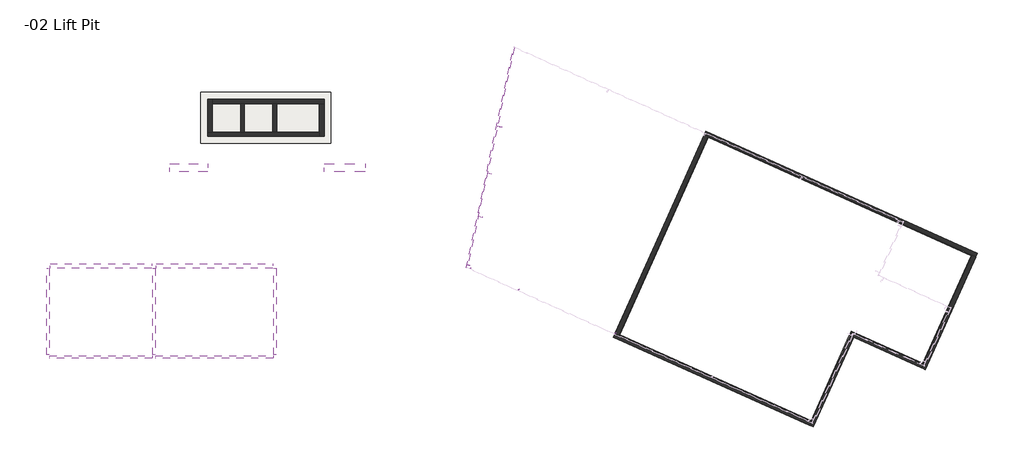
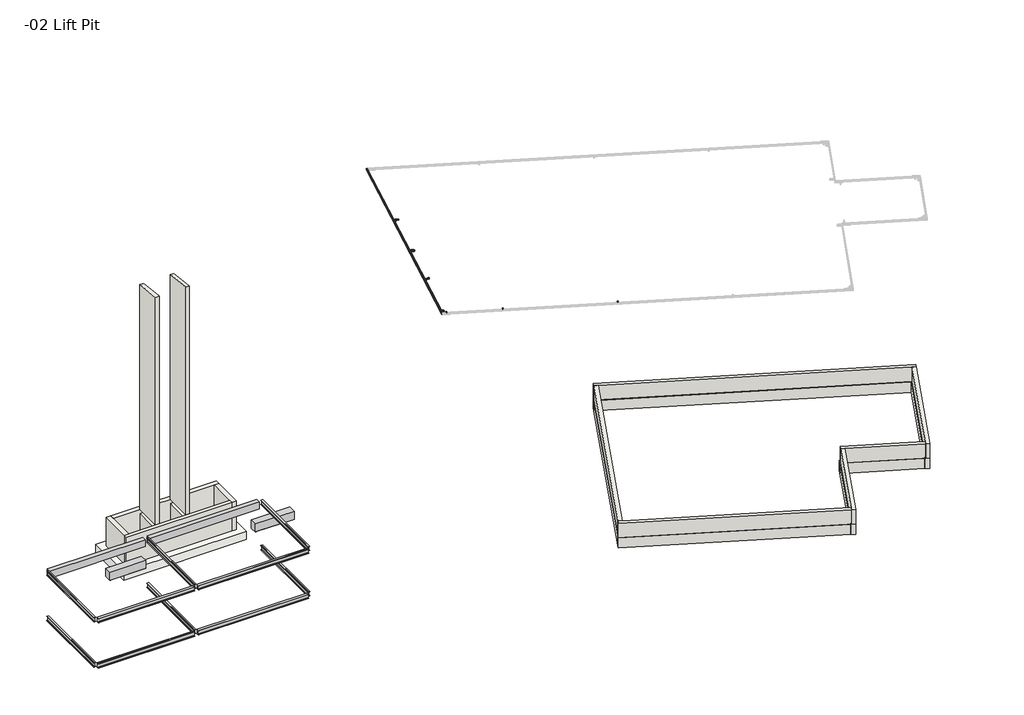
# One storey, part 1 of 3: 22 beams, 18 walls, 1 slab.
"""IFC4 building model written with IfcOpenShell, lengths in millimetres."""

from ifc_helpers import new_model, si_unit, frame, origin, place, context, project, spatial, polyline, ellipse_curve, outline, extrude, faceted_brep, transform, mapped, element, save
from ifc_brep_helpers import plane_surface, cylinder_surface, revolved_surface, advanced_brep
from components import hss_hollow_structural_section_hss3x2x1_8_139d3190, hss_hollow_structural_section_hss3x2x1_8_24952963, hss_hollow_structural_section_hss3x2x1_8_be35bb29, hss_hollow_structural_section_hss3x2x1_8_7ccaf686, hss_hollow_structural_section_hss3x2x1_8_c5a4428d, w_shapes_w12x26_597c9bcb, w_shapes_w12x26_85c0d87e, w_shapes_w12x26_268029d0, w_shapes_w12x26_8135fd55

model = new_model("IFC4")

# Units and contexts
model_context = context("Model", 3, world=origin())
ifc_project = project(units=[si_unit("LENGTHUNIT", "METRE", prefix="MILLI")], contexts=[model_context])

# Site, building, storey
site = spatial("IfcSite", under=ifc_project)
building = spatial("IfcBuilding", under=site)
storey = spatial("IfcBuildingStorey", under=building, Name="-02 Lift Pit", Elevation=-2133.6)

# Beams
placement = place(None, origin())
element("IfcBeam", 1, ObjectType="Concrete-Rectangular Beam : 12 x 24", at=placement, inside=storey, context=model_context, shape_type="SweptSolid", body=[
    extrude(outline(polyline([(152.4, -14147.8), (152.4, -13843.0), (6858.0, -13843.0), (6858.0, -14147.8), (152.4, -14147.8)])), frame((0.0, 0.0, 5892.8), z_axis=(0.0, 0.0, 1.0), x_axis=(1.0, 0.0, 0.0)), (0.0, 0.0, 1.0), 508.0),
])
element("IfcBeam", 2, ObjectType="Concrete-Rectangular Beam : 12 x 24", at=placement, inside=storey, context=model_context, shape_type="SweptSolid", body=[
    extrude(outline(polyline([(14846.3, -13843.0), (14846.3, -14147.8), (7162.8, -14147.8), (7162.8, -13843.0), (14846.3, -13843.0)])), frame((0.0, 0.0, 5892.8), z_axis=(0.0, 0.0, 1.0), x_axis=(1.0, 0.0, 0.0)), (0.0, 0.0, 1.0), 508.0),
])
hss_hollow_structural_section_hss3x2x1_8_shape = hss_hollow_structural_section_hss3x2x1_8_139d3190(model_context)
element("IfcBeam", 3, ObjectType="HSS-Hollow Structural Section : HSS3X2X1/8", at=placement, inside=storey, context=model_context, shape_type="MappedRepresentation", body=[
    mapped(hss_hollow_structural_section_hss3x2x1_8_shape, transform((28553.1839899, -10746.3611508, 16083.2409028), x_axis=(0.9777434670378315, -0.20951645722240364, 0.010980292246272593), y_axis=(0.20870511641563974, 0.9766389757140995, 0.05117113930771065), z_axis=(-0.021444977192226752, -0.04774060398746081, 0.9986295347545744))),
])
element("IfcBeam", 4, ObjectType="HSS-Hollow Structural Section : HSS3X2X1/8", at=placement, inside=storey, context=model_context, shape_type="MappedRepresentation", body=[
    mapped(hss_hollow_structural_section_hss3x2x1_8_shape, transform((29163.4667864, -7890.5329109, 16232.8724333), x_axis=(0.9777434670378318, -0.20951645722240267, 0.010980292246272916), y_axis=(0.20870511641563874, 0.9766389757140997, 0.05117113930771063), z_axis=(-0.021444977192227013, -0.04774060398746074, 0.9986295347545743))),
])
element("IfcBeam", 5, ObjectType="HSS-Hollow Structural Section : HSS3X2X1/8", at=placement, inside=storey, context=model_context, shape_type="MappedRepresentation", body=[
    mapped(hss_hollow_structural_section_hss3x2x1_8_shape, transform((29824.9886577, -4794.9305897, 16395.0669613), x_axis=(0.9777434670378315, -0.2095164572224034, 0.010980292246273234), y_axis=(0.20870511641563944, 0.9766389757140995, 0.05117113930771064), z_axis=(-0.021444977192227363, -0.04774060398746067, 0.9986295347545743))),
])
hss_hollow_structural_section_hss3x2x1_8_2_shape = hss_hollow_structural_section_hss3x2x1_8_24952963(model_context)
element("IfcBeam", 6, ObjectType="HSS-Hollow Structural Section : HSS3X2X1/8", at=placement, inside=storey, context=model_context, shape_type="MappedRepresentation", body=[
    mapped(hss_hollow_structural_section_hss3x2x1_8_2_shape, transform((31113.9933399, -15523.9075304, 15909.8368069), x_axis=(-0.40919454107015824, -0.9109449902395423, -0.05233595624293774), y_axis=(0.9121951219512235, -0.409756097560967, 0.0), z_axis=(-0.021444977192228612, -0.0477406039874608, 0.9986295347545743))),
])
hss_hollow_structural_section_hss3x2x1_8_3_shape = hss_hollow_structural_section_hss3x2x1_8_be35bb29(model_context)
element("IfcBeam", 7, ObjectType="HSS-Hollow Structural Section : HSS3X2X1/8", at=placement, inside=storey, context=model_context, shape_type="MappedRepresentation", body=[
    mapped(hss_hollow_structural_section_hss3x2x1_8_3_shape, transform((37509.7248478, -18394.5052449, 15909.9492086), x_axis=(-0.409194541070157, -0.910944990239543, -0.05233595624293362), y_axis=(0.912195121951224, -0.4097560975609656, 0.0), z_axis=(-0.021444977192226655, -0.04774060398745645, 0.9986295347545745))),
])
hss_hollow_structural_section_hss3x2x1_8_4_shape = hss_hollow_structural_section_hss3x2x1_8_7ccaf686(model_context)
element("IfcBeam", 8, ObjectType="HSS-Hollow Structural Section : HSS3X2X1/8", at=placement, inside=storey, context=model_context, shape_type="MappedRepresentation", body=[
    mapped(hss_hollow_structural_section_hss3x2x1_8_4_shape, transform((27860.6590059, -13959.5725396, 15914.7581682), x_axis=(-0.9777434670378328, 0.209516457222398, -0.010980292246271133), y_axis=(-0.20870511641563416, -0.9766389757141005, -0.05117113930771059), z_axis=(-0.021444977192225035, -0.047740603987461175, 0.9986295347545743))),
])
hss_hollow_structural_section_hss3x2x1_8_5_shape = hss_hollow_structural_section_hss3x2x1_8_c5a4428d(model_context)
element("IfcBeam", 9, ObjectType="HSS-Hollow Structural Section : HSS3X2X1/8", at=placement, inside=storey, context=model_context, shape_type="MappedRepresentation", body=[
    mapped(hss_hollow_structural_section_hss3x2x1_8_5_shape, transform((27952.9662678, -14104.0086143, 15909.8354835), x_axis=(-0.40919454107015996, -0.9109449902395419, -0.05233595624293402), y_axis=(0.9121951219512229, -0.40975609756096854, 0.0), z_axis=(-0.02144497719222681, -0.0477406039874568, 0.9986295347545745))),
])
element("IfcBeam", 10, ObjectType="HSS-Hollow Structural Section : HSS5X2X1/8", at=placement, inside=storey, context=model_context, shape_type="AdvancedBrep", body=[
    advanced_brep(
    [(30775.5166497, 477.596911, 16705.6903584), (30771.4031294, 486.233955, 16700.1140396), (27647.3085375, -14133.0173345, 15934.13627), (27653.9377637, -14129.882092, 15940.3293994), (30803.5876534, 422.2762939, 16703.6485024), (27698.6644754, -14107.262053, 15942.3712554), (30807.9539155, 414.2019015, 16697.455373), (27705.5464435, -14103.5641587, 15936.7949366), (30810.4246857, 419.7023065, 16582.3988703), (27708.0172137, -14098.0637537, 15821.7384339), (30806.3111655, 428.3393506, 16576.8225515), (27701.3879876, -14101.1989963, 15815.5453044), (30778.2401618, 483.6599677, 16578.8644074), (27656.6612758, -14123.8190353, 15813.5034485), (30773.8738996, 491.73436, 16585.0575369), (27649.7793077, -14127.5169295, 15819.0797673), (30775.5798351, 477.7375739, 16702.7479963), (30803.6508388, 422.4169568, 16700.7061404), (27698.7276609, -14107.1213901, 15939.4288933), (27654.0009491, -14129.7414291, 15937.3870374), (30773.523075, 482.0560959, 16699.9598369), (27650.6863361, -14131.3090503, 15934.2904726), (30775.9938452, 487.5565009, 16584.9033342), (27653.1571062, -14125.8086453, 15819.23397), (30778.1769763, 483.5193048, 16581.8067695), (27656.5980903, -14123.9596982, 15816.4458106), (30806.24798, 428.1986877, 16579.7649136), (27701.3248021, -14101.3396592, 15818.4876665), (30808.3047401, 423.8801657, 16582.553073), (27704.6394151, -14099.7720379, 15821.5842312), (30805.8339699, 418.3797606, 16697.6095756), (27702.168645, -14105.2724429, 15936.6407339)],
    [
        (0, 1, ellipse_curve(frame((30775.6430206, 477.8782368, 16699.8056342), z_axis=(-0.89162974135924, -0.4509318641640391, -0.04070452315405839), x_axis=(-0.45225713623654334, 0.8912807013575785, 0.0328967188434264)), 9.3749569, 5.8928)),
        (1, 2),
        (2, 3, ellipse_curve(frame((27654.0641346, -14129.6007661, 15934.4446753), z_axis=(-0.452257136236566, 0.8912807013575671, 0.03289671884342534), x_axis=(0.8916297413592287, 0.45093186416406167, 0.04070452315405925)), 7.5766843, 5.8928)),
        (3, 0),
        (4, 0),
        (3, 5),
        (5, 4),
        (6, 4, ellipse_curve(frame((30803.7140243, 422.5576197, 16697.7637783), z_axis=(-0.89162974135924, -0.4509318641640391, -0.04070452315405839), x_axis=(-0.45225713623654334, 0.8912807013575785, 0.0328967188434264)), 9.3749569, 5.8928)),
        (5, 7, ellipse_curve(frame((27698.7908464, -14106.9807271, 15936.4865312), z_axis=(-0.452257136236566, 0.8912807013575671, 0.03289671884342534), x_axis=(0.8916297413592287, 0.45093186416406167, 0.04070452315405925)), 7.5766843, 5.8928)),
        (7, 6),
        (8, 6),
        (7, 9),
        (9, 8),
        (10, 8, ellipse_curve(frame((30806.1847945, 428.0580248, 16582.7072756), z_axis=(-0.89162974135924, -0.4509318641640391, -0.04070452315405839), x_axis=(-0.45225713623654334, 0.8912807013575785, 0.0328967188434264)), 9.3749569, 5.8928)),
        (9, 11, ellipse_curve(frame((27701.2616166, -14101.4803221, 15821.4300286), z_axis=(-0.452257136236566, 0.8912807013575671, 0.03289671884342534), x_axis=(0.8916297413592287, 0.45093186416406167, 0.04070452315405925)), 7.5766843, 5.8928)),
        (11, 10),
        (12, 10),
        (11, 13),
        (13, 12),
        (14, 12, ellipse_curve(frame((30778.1137908, 483.3786418, 16584.7491316), z_axis=(-0.89162974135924, -0.4509318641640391, -0.04070452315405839), x_axis=(-0.45225713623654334, 0.8912807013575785, 0.0328967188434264)), 9.3749569, 5.8928)),
        (13, 15, ellipse_curve(frame((27656.5349048, -14124.1003611, 15819.3881726), z_axis=(-0.452257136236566, 0.8912807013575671, 0.03289671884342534), x_axis=(0.8916297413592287, 0.45093186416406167, 0.04070452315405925)), 7.5766843, 5.8928)),
        (15, 14),
        (1, 14),
        (15, 2),
        (16, 17),
        (17, 18),
        (18, 19),
        (19, 16),
        (20, 16, ellipse_curve(frame((30775.6430206, 477.8782368, 16699.8056342), z_axis=(0.89162974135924, 0.4509318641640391, 0.04070452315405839), x_axis=(0.45225713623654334, -0.8912807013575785, -0.0328967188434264)), 4.6874785, 2.9464)),
        (19, 21, ellipse_curve(frame((27654.0641346, -14129.6007661, 15934.4446753), z_axis=(0.452257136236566, -0.8912807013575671, -0.03289671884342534), x_axis=(-0.8916297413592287, -0.45093186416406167, -0.04070452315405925)), 3.7883422, 2.9464)),
        (21, 20),
        (22, 20),
        (21, 23),
        (23, 22),
        (24, 22, ellipse_curve(frame((30778.1137908, 483.3786418, 16584.7491316), z_axis=(0.89162974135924, 0.4509318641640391, 0.04070452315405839), x_axis=(0.45225713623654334, -0.8912807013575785, -0.0328967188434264)), 4.6874785, 2.9464)),
        (23, 25, ellipse_curve(frame((27656.5349048, -14124.1003611, 15819.3881726), z_axis=(0.452257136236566, -0.8912807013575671, -0.03289671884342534), x_axis=(-0.8916297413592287, -0.45093186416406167, -0.04070452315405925)), 3.7883422, 2.9464)),
        (25, 24),
        (26, 24),
        (25, 27),
        (27, 26),
        (28, 26, ellipse_curve(frame((30806.1847945, 428.0580248, 16582.7072756), z_axis=(0.89162974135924, 0.4509318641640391, 0.04070452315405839), x_axis=(0.45225713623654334, -0.8912807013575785, -0.0328967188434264)), 4.6874785, 2.9464)),
        (27, 29, ellipse_curve(frame((27701.2616166, -14101.4803221, 15821.4300286), z_axis=(0.452257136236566, -0.8912807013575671, -0.03289671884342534), x_axis=(-0.8916297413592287, -0.45093186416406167, -0.04070452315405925)), 3.7883422, 2.9464)),
        (29, 28),
        (30, 28),
        (29, 31),
        (31, 30),
        (17, 30, ellipse_curve(frame((30803.7140243, 422.5576197, 16697.7637783), z_axis=(0.89162974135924, 0.4509318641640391, 0.04070452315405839), x_axis=(0.45225713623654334, -0.8912807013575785, -0.0328967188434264)), 4.6874785, 2.9464)),
        (31, 18, ellipse_curve(frame((27698.7908464, -14106.9807271, 15936.4865312), z_axis=(0.452257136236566, -0.8912807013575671, -0.03289671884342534), x_axis=(-0.8916297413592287, -0.45093186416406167, -0.04070452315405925)), 3.7883422, 2.9464)),
    ],
    [
        cylinder_surface(frame((30770.6054851, 454.3050077, 16698.5705115), z_axis=(0.2087051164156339, 0.9766389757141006, 0.05117113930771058), x_axis=(0.9777434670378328, -0.20951645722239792, 0.010980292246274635)), 5.8928),
        plane_surface(frame((30770.4791142, 454.0236819, 16704.4552356), z_axis=(-0.02144497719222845, -0.04774060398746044, 0.9986295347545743), x_axis=(-0.2087051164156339, -0.9766389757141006, -0.05117113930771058))),
        cylinder_surface(frame((30808.7515598, 446.1308488, 16698.998901), z_axis=(0.2087051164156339, 0.9766389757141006, 0.05117113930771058), x_axis=(0.9777434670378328, -0.20951645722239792, 0.010980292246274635)), 5.8928),
        plane_surface(frame((30814.5132065, 444.8962102, 16699.0636057), z_axis=(0.9777434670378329, -0.20951645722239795, 0.010980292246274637), x_axis=(-0.2087051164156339, -0.9766389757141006, -0.05117113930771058))),
        cylinder_surface(frame((30811.22233, 451.6312539, 16583.9423984), z_axis=(0.2087051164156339, 0.9766389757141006, 0.05117113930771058), x_axis=(0.9777434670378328, -0.20951645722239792, 0.010980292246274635)), 5.8928),
        plane_surface(frame((30811.348701, 451.9125797, 16578.0576742), z_axis=(0.02144497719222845, 0.04774060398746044, -0.9986295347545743), x_axis=(-0.2087051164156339, -0.9766389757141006, -0.05117113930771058))),
        cylinder_surface(frame((30773.0762553, 459.8054127, 16583.5140088), z_axis=(0.2087051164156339, 0.9766389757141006, 0.05117113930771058), x_axis=(0.9777434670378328, -0.20951645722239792, 0.010980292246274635)), 5.8928),
        plane_surface(frame((30767.3146086, 461.0400513, 16583.4493042), z_axis=(-0.9777434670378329, 0.20951645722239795, -0.010980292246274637), x_axis=(-0.2087051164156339, -0.9766389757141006, -0.05117113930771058))),
        plane_surface(frame((30808.6883744, 445.9901859, 16701.9412631), z_axis=(0.02144497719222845, 0.04774060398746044, -0.9986295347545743), x_axis=(-0.2087051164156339, -0.9766389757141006, -0.05117113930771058))),
        revolved_surface(polyline([(27656.44798275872, -14132.54368889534, 15934.355177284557), (30779.284721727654, 480.82145733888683, 16700.024541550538)]), (30770.6054851, 454.3050077, 16698.5705115), (-0.2087051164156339, -0.9766389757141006, -0.05117113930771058)),
        plane_surface(frame((30767.7246618, 454.922327, 16698.5381592), z_axis=(0.9777434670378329, -0.20951645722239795, 0.010980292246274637), x_axis=(-0.2087051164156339, -0.9766389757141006, -0.05117113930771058))),
        revolved_surface(polyline([(27658.91875295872, -14127.04328389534, 15819.29867458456), (30781.75549192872, 486.3218623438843, 16584.968038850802)]), (30773.0762553, 459.8054127, 16583.5140088), (-0.2087051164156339, -0.9766389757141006, -0.05117113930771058)),
        plane_surface(frame((30773.1394408, 459.9460756, 16580.5716468), z_axis=(-0.02144497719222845, -0.04774060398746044, 0.9986295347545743), x_axis=(-0.2087051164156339, -0.9766389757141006, -0.05117113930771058))),
        revolved_surface(polyline([(27703.64546471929, -14104.423244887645, 15821.340530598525), (30809.826495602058, 431.00124534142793, 16582.92618300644)]), (30811.22233, 451.6312539, 16583.9423984), (-0.2087051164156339, -0.9766389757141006, -0.05117113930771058)),
        plane_surface(frame((30814.1031534, 451.0139346, 16583.9747507), z_axis=(-0.9777434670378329, 0.20951645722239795, -0.010980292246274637), x_axis=(-0.2087051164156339, -0.9766389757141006, -0.05117113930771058))),
        revolved_surface(polyline([(27701.174694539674, -14109.923649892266, 15936.397033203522), (30807.355725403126, 425.5008402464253, 16697.9826856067)]), (30808.7515598, 446.1308488, 16698.998901), (-0.2087051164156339, -0.9766389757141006, -0.05117113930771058)),
        plane_surface(frame((27703.7859653, -14107.4833186, 16018.7752312), z_axis=(0.4522571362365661, -0.8912807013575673, -0.03289671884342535), x_axis=(0.8918875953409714, 0.45194939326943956, 0.016681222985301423))),
        plane_surface(frame((30806.1934373, 410.2827416, 16779.4356677), z_axis=(0.8916297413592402, 0.4509318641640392, 0.0407045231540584), x_axis=(0.4527652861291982, -0.8880191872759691, -0.08015933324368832))),
    ],
    [
        (0, [[1, 2, 3, 4]]),
        (1, [[5, -4, 6, 7]]),
        (2, [[8, -7, 9, 10]]),
        (3, [[11, -10, 12, 13]]),
        (4, [[14, -13, 15, 16]]),
        (5, [[17, -16, 18, 19]]),
        (6, [[20, -19, 21, 22]]),
        (7, [[23, -22, 24, -2]]),
        (8, [[25, 26, 27, 28]]),
        (9, [[29, -28, 30, 31]]),
        (10, [[32, -31, 33, 34]]),
        (11, [[35, -34, 36, 37]]),
        (12, [[38, -37, 39, 40]]),
        (13, [[41, -40, 42, 43]]),
        (14, [[44, -43, 45, 46]]),
        (15, [[47, -46, 48, -26]]),
        (16, [[-24, -21, -18, -15, -12, -9, -6, -3], [-48, -45, -42, -39, -36, -33, -30, -27]]),
        (17, [[-1, -5, -8, -11, -14, -17, -20, -23], [-25, -29, -32, -35, -38, -41, -44, -47]]),
    ],
),
])
element("IfcBeam", 11, ObjectType="Ring Beam : 12 x 24", at=placement, inside=storey, context=model_context, shape_type="SweptSolid", body=[
    extrude(outline(polyline([(-7759.7, -304.8), (-7251.7, -304.8), (-7251.7, -889.0), (-7277.1, -914.4), (-7734.3, -914.4), (-7759.7, -889.0), (-7759.7, -304.8)])), frame((18249.9, 0.0, 0.0), z_axis=(1.0, 0.0, 0.0), x_axis=(0.0, 1.0, 0.0)), (0.0, 0.0, 1.0), 2717.8),
])
element("IfcBeam", 12, ObjectType="Ring Beam : 12 x 24", at=placement, inside=storey, context=model_context, shape_type="SweptSolid", body=[
    extrude(outline(polyline([(-7759.7, -889.0), (-7759.7, -304.8), (-7251.7, -304.8), (-7251.7, -889.0), (-7277.1, -914.4), (-7734.3, -914.4), (-7759.7, -889.0)])), frame((8051.8, 0.0, 0.0), z_axis=(1.0, 0.0, 0.0), x_axis=(0.0, 1.0, 0.0)), (0.0, 0.0, 1.0), 2501.9),
])
w_shapes_w12x26_shape = w_shapes_w12x26_597c9bcb(model_context)
element("IfcBeam", 13, ObjectType="W Shapes : W12X26", at=placement, inside=storey, context=model_context, shape_type="MappedRepresentation", body=[
    mapped(w_shapes_w12x26_shape, transform((14998.7, -16998.95, 2994.66), x_axis=(0.0, -1.0, 0.0), y_axis=(1.0, 0.0, 0.0), z_axis=(0.0, 0.0, 1.0))),
])
element("IfcBeam", 14, ObjectType="W Shapes : W12X26", at=placement, inside=storey, context=model_context, shape_type="MappedRepresentation", body=[
    mapped(w_shapes_w12x26_shape, transform((14998.7, -16998.95, 6347.46), x_axis=(0.0, -1.0, 0.0), y_axis=(1.0, 0.0, 0.0), z_axis=(0.0, 0.0, 1.0))),
])
w_shapes_w12x26_2_shape = w_shapes_w12x26_85c0d87e(model_context)
element("IfcBeam", 15, ObjectType="W Shapes : W12X26", at=placement, inside=storey, context=model_context, shape_type="MappedRepresentation", body=[
    mapped(w_shapes_w12x26_2_shape, transform((11004.55, -20002.5, 2994.66), x_axis=(-1.0, 0.0, 0.0), y_axis=(0.0, -1.0, 0.0), z_axis=(0.0, 0.0, 1.0))),
])
element("IfcBeam", 16, ObjectType="W Shapes : W12X26", at=placement, inside=storey, context=model_context, shape_type="MappedRepresentation", body=[
    mapped(w_shapes_w12x26_2_shape, transform((11004.55, -20002.5, 6347.46), x_axis=(-1.0, 0.0, 0.0), y_axis=(0.0, -1.0, 0.0), z_axis=(0.0, 0.0, 1.0))),
])
w_shapes_w12x26_3_shape = w_shapes_w12x26_268029d0(model_context)
element("IfcBeam", 17, ObjectType="W Shapes : W12X26", at=placement, inside=storey, context=model_context, shape_type="MappedRepresentation", body=[
    mapped(w_shapes_w12x26_3_shape, transform((7010.4, -16998.95, 2994.66), x_axis=(0.0, 1.0, 0.0), y_axis=(-1.0, 0.0, 0.0), z_axis=(0.0, 0.0, 1.0))),
])
element("IfcBeam", 18, ObjectType="W Shapes : W12X26", at=placement, inside=storey, context=model_context, shape_type="MappedRepresentation", body=[
    mapped(w_shapes_w12x26_3_shape, transform((0.0, -16998.95, 2994.66), x_axis=(0.0, 1.0, 0.0), y_axis=(-1.0, 0.0, 0.0), z_axis=(0.0, 0.0, 1.0))),
])
element("IfcBeam", 19, ObjectType="W Shapes : W12X26", at=placement, inside=storey, context=model_context, shape_type="MappedRepresentation", body=[
    mapped(w_shapes_w12x26_3_shape, transform((7010.4, -16998.95, 6347.46), x_axis=(0.0, 1.0, 0.0), y_axis=(-1.0, 0.0, 0.0), z_axis=(0.0, 0.0, 1.0))),
])
element("IfcBeam", 20, ObjectType="W Shapes : W12X26", at=placement, inside=storey, context=model_context, shape_type="MappedRepresentation", body=[
    mapped(w_shapes_w12x26_3_shape, transform((0.0, -16998.95, 6347.46), x_axis=(0.0, 1.0, 0.0), y_axis=(-1.0, 0.0, 0.0), z_axis=(0.0, 0.0, 1.0))),
])
w_shapes_w12x26_4_shape = w_shapes_w12x26_8135fd55(model_context)
element("IfcBeam", 21, ObjectType="W Shapes : W12X26", at=placement, inside=storey, context=model_context, shape_type="MappedRepresentation", body=[
    mapped(w_shapes_w12x26_4_shape, transform((3505.2, -20002.5, 2994.66), x_axis=(-1.0, 0.0, 0.0), y_axis=(0.0, -1.0, 0.0), z_axis=(0.0, 0.0, 1.0))),
])
element("IfcBeam", 22, ObjectType="W Shapes : W12X26", at=placement, inside=storey, context=model_context, shape_type="MappedRepresentation", body=[
    mapped(w_shapes_w12x26_4_shape, transform((3505.2, -20002.5, 6347.46), x_axis=(-1.0, 0.0, 0.0), y_axis=(0.0, -1.0, 0.0), z_axis=(0.0, 0.0, 1.0))),
])

# Slab
element("IfcSlab", 23, ObjectType="24\" Foundation Slab", at=placement, inside=storey, context=model_context, shape_type="SweptSolid", body=[
    extrude(outline(polyline([(10096.5, -5880.1), (10096.5, -2527.3), (18707.1, -2527.3), (18707.1, -5880.1), (10096.5, -5880.1)])), frame((0.0, 0.0, -2743.2), z_axis=(0.0, 0.0, 1.0), x_axis=(1.0, 0.0, 0.0)), (0.0, 0.0, 1.0), 609.6),
])

# Walls
element("IfcWall", 24, ObjectType="RC Wall 10\"", at=placement, inside=storey, context=model_context, shape_type="SweptSolid", body=[
    extrude(outline(polyline([(12992.1, -3289.3), (12992.1, -5168.9), (12738.1, -5168.9), (12738.1, -3289.3), (12992.1, -3289.3)])), frame((0.0, 0.0, -2133.6), z_axis=(0.0, 0.0, 1.0), x_axis=(1.0, 0.0, 0.0)), (0.0, 0.0, 1.0), 1828.8),
    extrude(outline(polyline([(-5168.9, 16872.3860006), (-3289.3, 16674.83208), (-3289.3, 0.0), (-5168.9, 0.0), (-5168.9, 16872.3860006)])), frame((12738.1, 0.0, 0.0), z_axis=(1.0, 0.0, 0.0), x_axis=(0.0, 1.0, 0.0)), (0.0, 0.0, 1.0), 254.0),
])
element("IfcWall", 25, ObjectType="RC Wall 10\"", at=placement, inside=storey, context=model_context, shape_type="SweptSolid", body=[
    extrude(outline(polyline([(15125.7, -3289.3), (15125.7, -5168.9), (14871.7, -5168.9), (14871.7, -3289.3), (15125.7, -3289.3)])), frame((0.0, 0.0, -2133.6), z_axis=(0.0, 0.0, 1.0), x_axis=(1.0, 0.0, 0.0)), (0.0, 0.0, 1.0), 1828.8),
    extrude(outline(polyline([(-5168.9, 16872.3860006), (-3289.3, 16674.83208), (-3289.3, 0.0), (-5168.9, 0.0), (-5168.9, 16872.3860006)])), frame((14871.7, 0.0, 0.0), z_axis=(1.0, 0.0, 0.0), x_axis=(0.0, 1.0, 0.0)), (0.0, 0.0, 1.0), 254.0),
])
element("IfcWall", 26, ObjectType="RC Wall 10\"", at=placement, inside=storey, context=model_context, shape_type="Brep", body=[
    faceted_brep([(10553.7, -5422.9, -2133.6), (17945.1, -5422.9, -2133.6), (17945.1, -5422.9, 0.0), (10553.7, -5422.9, 0.0), (10553.7, -5422.9, -304.8), (10553.7, -5422.9, -914.4), (10553.7, -5168.9, -2133.6), (10553.7, -5168.9, 0.0), (10858.5, -5168.9, 0.0), (17945.1, -5168.9, 0.0), (17945.1, -5168.9, -304.8), (17945.1, -5168.9, -2133.6), (15125.7, -5168.9, -2133.6), (14871.7, -5168.9, -2133.6), (12992.1, -5168.9, -2133.6), (12738.1, -5168.9, -2133.6), (10858.5, -5168.9, -2133.6)], [[[0, 1, 2, 3, 4, 5]], [[6, 7, 8, 9, 10, 11, 12, 13, 14, 15, 16]], [[1, 0, 6, 16, 15, 14, 13, 12, 11]], [[3, 2, 9, 8, 7]], [[0, 5, 4, 3, 7, 6]], [[2, 1, 11, 10, 9]]]),
])
element("IfcWall", 27, ObjectType="RC Wall 10\"", at=placement, inside=storey, context=model_context, shape_type="Brep", body=[
    faceted_brep([(43375.5853595, -5335.982439, -1371.6), (43607.2829205, -5440.0604878, -1371.6), (61077.2790181, -13287.5453659, -1371.6), (61308.976579, -13391.6234146, -1371.6), (61308.976579, -13391.6234146, -304.8), (61077.2790181, -13287.5453659, -304.8), (43607.2829205, -5440.0604878, -304.8), (43375.5853595, -5335.982439, -304.8), (43479.6634083, -5104.284878, -1371.6), (43479.6634083, -5104.284878, -1193.8), (43479.6634083, -5104.284878, -304.8), (61413.0546278, -13159.9258537, -304.8), (61413.0546278, -13159.9258537, -1371.6)], [[[0, 1, 2, 3, 4, 5, 6, 7]], [[8, 9, 10, 11, 12]], [[3, 2, 1, 0, 8, 12]], [[7, 6, 5, 4, 11, 10]], [[4, 3, 12, 11]], [[0, 7, 10, 9, 8]]]),
])
element("IfcWall", 28, ObjectType="RC Wall 10\"", at=placement, inside=storey, context=model_context, shape_type="Brep", body=[
    faceted_brep([(61077.2790181, -13287.5453659, -1371.6), (57835.2477985, -20504.9243902, -1371.6), (57731.1697498, -20736.6219512, -1371.6), (57731.1697498, -20736.6219512, -304.8), (57835.2477985, -20504.9243902, -304.8), (61077.2790181, -13287.5453659, -304.8), (61308.976579, -13391.6234146, -1371.6), (61308.976579, -13391.6234146, -304.8), (57962.8673107, -20840.7, -304.8), (57962.8673107, -20840.7, -1371.6), (61288.1609693, -13437.9629268, -1371.6)], [[[0, 1, 2, 3, 4, 5]], [[6, 7, 8, 9, 10]], [[2, 1, 0, 6, 10, 9]], [[5, 4, 3, 8, 7]], [[0, 5, 7, 6]], [[3, 2, 9, 8]]]),
])
element("IfcWall", 29, ObjectType="RC Wall 10\"", at=placement, inside=storey, context=model_context, shape_type="Brep", body=[
    faceted_brep([(57835.2477985, -20504.9243902, -1371.6), (53108.6175546, -18381.7321951, -1371.6), (53108.6175546, -18381.7321951, -304.8), (57835.2477985, -20504.9243902, -304.8), (57731.1697498, -20736.6219512, -1371.6), (57731.1697498, -20736.6219512, -304.8), (53236.2370668, -18717.5078049, -304.8), (53004.5395059, -18613.4297561, -304.8), (53004.5395059, -18613.4297561, -1371.6), (53236.2370668, -18717.5078049, -1371.6), (57684.8302376, -20715.8063415, -1371.6)], [[[0, 1, 2, 3]], [[4, 5, 6, 7, 8, 9, 10]], [[1, 0, 4, 10, 9, 8]], [[3, 2, 7, 6, 5]], [[0, 3, 5, 4]], [[2, 1, 8, 7]]]),
])
element("IfcWall", 30, ObjectType="RC Wall 10\"", at=placement, inside=storey, context=model_context, shape_type="Brep", body=[
    faceted_brep([(53004.5395059, -18613.4297561, -1371.6), (50449.4234083, -24301.604878, -1371.6), (50345.3453595, -24533.302439, -1371.6), (50345.3453595, -24533.302439, -304.8), (50449.4234083, -24301.604878, -304.8), (53004.5395059, -18613.4297561, -304.8), (53236.2370668, -18717.5078049, -1371.6), (53236.2370668, -18717.5078049, -304.8), (50577.0429205, -24637.3804878, -304.8), (50577.0429205, -24637.3804878, -1371.6)], [[[0, 1, 2, 3, 4, 5]], [[6, 7, 8, 9]], [[2, 1, 0, 6, 9]], [[5, 4, 3, 8, 7]], [[0, 5, 7, 6]], [[3, 2, 9, 8]]]),
])
element("IfcWall", 31, ObjectType="RC Wall 10\"", at=placement, inside=storey, context=model_context, shape_type="Brep", body=[
    faceted_brep([(50449.4234083, -24301.604878, -1371.6), (37706.0575546, -18577.3121951, -1371.6), (37474.3599937, -18473.2341463, -1371.6), (37474.3599937, -18473.2341463, -304.8), (37706.0575546, -18577.3121951, -304.8), (50449.4234083, -24301.604878, -304.8), (50345.3453595, -24533.302439, -1371.6), (50345.3453595, -24533.302439, -304.8), (37370.2819449, -18704.9317073, -304.8), (37370.2819449, -18704.9317073, -1193.8), (37370.2819449, -18704.9317073, -1371.6), (50299.0058473, -24512.4868293, -1371.6)], [[[0, 1, 2, 3, 4, 5]], [[6, 7, 8, 9, 10, 11]], [[2, 1, 0, 6, 11, 10]], [[5, 4, 3, 8, 7]], [[0, 5, 7, 6]], [[3, 2, 10, 9, 8]]]),
])
element("IfcWall", 32, ObjectType="RC Wall 10\"", at=placement, inside=storey, context=model_context, shape_type="Brep", body=[
    faceted_brep([(37706.0575546, -18577.3121951, -1371.6), (43607.2829205, -5440.0604878, -1371.6), (43607.2829205, -5440.0604878, -304.8), (37706.0575546, -18577.3121951, -304.8), (37474.3599937, -18473.2341463, -1371.6), (37474.3599937, -18473.2341463, -304.8), (43375.5853595, -5335.982439, -304.8), (43375.5853595, -5335.982439, -1371.6), (43354.7697498, -5382.3219512, -1371.6), (37495.1756034, -18426.8946341, -1371.6)], [[[0, 1, 2, 3]], [[4, 5, 6, 7, 8, 9]], [[1, 0, 4, 9, 8, 7]], [[3, 2, 6, 5]], [[2, 1, 7, 6]], [[0, 3, 5, 4]]]),
])
element("IfcWall", 33, ObjectType="RC Wall 12\"", at=placement, inside=storey, context=model_context, shape_type="Brep", body=[
    faceted_brep([(10553.7, -2984.5, -2133.6), (10553.7, -5168.9, -2133.6), (10553.7, -5168.9, 0.0), (10553.7, -2984.5, 0.0), (10553.7, -2984.5, -304.8), (10858.5, -2984.5, -2133.6), (10858.5, -2984.5, 0.0), (10858.5, -3289.3, 0.0), (10858.5, -5168.9, 0.0), (10858.5, -5168.9, -304.8), (10858.5, -5168.9, -2133.6), (10858.5, -3289.3, -2133.6)], [[[0, 1, 2, 3, 4]], [[5, 6, 7, 8, 9, 10, 11]], [[1, 0, 5, 11, 10]], [[3, 2, 8, 7, 6]], [[0, 4, 3, 6, 5]], [[2, 1, 10, 9, 8]]]),
])
element("IfcWall", 34, ObjectType="RC Wall 12\"", at=placement, inside=storey, context=model_context, shape_type="Brep", body=[
    faceted_brep([(18249.9, -2984.5, -2133.6), (10858.5, -2984.5, -2133.6), (10858.5, -2984.5, 0.0), (18249.9, -2984.5, 0.0), (18249.9, -2984.5, -304.8), (18249.9, -3289.3, -2133.6), (18249.9, -3289.3, 0.0), (17945.1, -3289.3, 0.0), (10858.5, -3289.3, 0.0), (10858.5, -3289.3, -304.8), (10858.5, -3289.3, -2133.6), (12738.1, -3289.3, -2133.6), (12992.1, -3289.3, -2133.6), (14871.7, -3289.3, -2133.6), (15125.7, -3289.3, -2133.6), (17945.1, -3289.3, -2133.6)], [[[0, 1, 2, 3, 4]], [[5, 6, 7, 8, 9, 10, 11, 12, 13, 14, 15]], [[1, 0, 5, 15, 14, 13, 12, 11, 10]], [[3, 2, 8, 7, 6]], [[0, 4, 3, 6, 5]], [[2, 1, 10, 9, 8]]]),
])
element("IfcWall", 35, ObjectType="RC Wall 12\"", at=placement, inside=storey, context=model_context, shape_type="Brep", body=[
    faceted_brep([(18249.9, -5422.9, -2133.6), (18249.9, -3289.3, -2133.6), (18249.9, -3289.3, 0.0), (18249.9, -5422.9, 0.0), (18249.9, -5422.9, -304.8), (17945.1, -5422.9, -2133.6), (17945.1, -5422.9, 0.0), (17945.1, -5168.9, 0.0), (17945.1, -3289.3, 0.0), (17945.1, -3289.3, -304.8), (17945.1, -3289.3, -2133.6), (17945.1, -5168.9, -2133.6)], [[[0, 1, 2, 3, 4]], [[5, 6, 7, 8, 9, 10, 11]], [[1, 0, 5, 11, 10]], [[3, 2, 8, 7, 6]], [[0, 4, 3, 6, 5]], [[2, 1, 10, 9, 8]]]),
])
element("IfcWall", 36, ObjectType="RC Wall 12\"", at=placement, inside=storey, context=model_context, shape_type="Brep", body=[
    faceted_brep([(43354.7697498, -5382.3219512, -2133.6), (43632.8068229, -5507.2156098, -2133.6), (61010.1238961, -13313.0692683, -2133.6), (61288.1609693, -13437.9629268, -2133.6), (61288.1609693, -13437.9629268, -1371.6), (61010.1238961, -13313.0692683, -1371.6), (43632.8068229, -5507.2156098, -1371.6), (43354.7697498, -5382.3219512, -1371.6), (43479.6634083, -5104.284878, -2133.6), (43479.6634083, -5104.284878, -1371.6), (61413.0546278, -13159.9258537, -1371.6), (61413.0546278, -13159.9258537, -2133.6), (61308.976579, -13391.6234146, -1371.6), (43375.5853595, -5335.982439, -1371.6)], [[[0, 1, 2, 3, 4, 5, 6, 7]], [[8, 9, 10, 11]], [[3, 2, 1, 0, 8, 11]], [[7, 6, 5, 4, 12, 10, 9, 13]], [[4, 3, 11, 10, 12]], [[0, 7, 13, 9, 8]]]),
])
element("IfcWall", 37, ObjectType="RC Wall 12\"", at=placement, inside=storey, context=model_context, shape_type="Brep", body=[
    faceted_brep([(61010.1238961, -13313.0692683, -2133.6), (57809.7238961, -20437.7692683, -2133.6), (57684.8302376, -20715.8063415, -2133.6), (57684.8302376, -20715.8063415, -1371.6), (57809.7238961, -20437.7692683, -1371.6), (61010.1238961, -13313.0692683, -1371.6), (61288.1609693, -13437.9629268, -2133.6), (61288.1609693, -13437.9629268, -1371.6), (57962.8673107, -20840.7, -1371.6), (57962.8673107, -20840.7, -2133.6), (57731.1697498, -20736.6219512, -1371.6)], [[[0, 1, 2, 3, 4, 5]], [[6, 7, 8, 9]], [[2, 1, 0, 6, 9]], [[5, 4, 3, 10, 8, 7]], [[0, 5, 7, 6]], [[3, 2, 9, 8, 10]]]),
])
element("IfcWall", 38, ObjectType="RC Wall 12\"", at=placement, inside=storey, context=model_context, shape_type="Brep", body=[
    faceted_brep([(57809.7238961, -20437.7692683, -2133.6), (53083.0936522, -18314.5770732, -2133.6), (53083.0936522, -18314.5770732, -1371.6), (57809.7238961, -20437.7692683, -1371.6), (57684.8302376, -20715.8063415, -2133.6), (57684.8302376, -20715.8063415, -1371.6), (53236.2370668, -18717.5078049, -1371.6), (53004.5395059, -18613.4297561, -1371.6), (52958.1999937, -18592.6141463, -1371.6), (52958.1999937, -18592.6141463, -2133.6), (53236.2370668, -18717.5078049, -2133.6)], [[[0, 1, 2, 3]], [[4, 5, 6, 7, 8, 9, 10]], [[1, 0, 4, 10, 9]], [[3, 2, 8, 7, 6, 5]], [[0, 3, 5, 4]], [[2, 1, 9, 8]]]),
])
element("IfcWall", 39, ObjectType="RC Wall 12\"", at=placement, inside=storey, context=model_context, shape_type="Brep", body=[
    faceted_brep([(52958.1999937, -18592.6141463, -2133.6), (50423.8995059, -24234.4497561, -2133.6), (50299.0058473, -24512.4868293, -2133.6), (50299.0058473, -24512.4868293, -1371.6), (50423.8995059, -24234.4497561, -1371.6), (52958.1999937, -18592.6141463, -1371.6), (53236.2370668, -18717.5078049, -2133.6), (53236.2370668, -18717.5078049, -1371.6), (50577.0429205, -24637.3804878, -1371.6), (50577.0429205, -24637.3804878, -2133.6), (50345.3453595, -24533.302439, -1371.6), (53004.5395059, -18613.4297561, -1371.6)], [[[0, 1, 2, 3, 4, 5]], [[6, 7, 8, 9]], [[2, 1, 0, 6, 9]], [[5, 4, 3, 10, 8, 7, 11]], [[0, 5, 11, 7, 6]], [[3, 2, 9, 8, 10]]]),
])
element("IfcWall", 40, ObjectType="RC Wall 12\"", at=placement, inside=storey, context=model_context, shape_type="Brep", body=[
    faceted_brep([(50423.8995059, -24234.4497561, -2133.6), (37773.2126766, -18551.7882927, -2133.6), (37495.1756034, -18426.8946341, -2133.6), (37495.1756034, -18426.8946341, -1371.6), (37773.2126766, -18551.7882927, -1371.6), (50423.8995059, -24234.4497561, -1371.6), (50299.0058473, -24512.4868293, -2133.6), (50299.0058473, -24512.4868293, -1371.6), (37370.2819449, -18704.9317073, -1371.6), (37370.2819449, -18704.9317073, -2133.6), (37474.3599937, -18473.2341463, -1371.6)], [[[0, 1, 2, 3, 4, 5]], [[6, 7, 8, 9]], [[2, 1, 0, 6, 9]], [[5, 4, 3, 10, 8, 7]], [[0, 5, 7, 6]], [[3, 2, 9, 8, 10]]]),
])
element("IfcWall", 41, ObjectType="RC Wall 12\"", at=placement, inside=storey, context=model_context, shape_type="SweptSolid", body=[
    extrude(outline(polyline([(43632.8068229, -5507.2156098), (37773.2126766, -18551.7882927), (37495.1756034, -18426.8946341), (43354.7697498, -5382.3219512), (43632.8068229, -5507.2156098)])), frame((0.0, 0.0, -2133.6), z_axis=(0.0, 0.0, 1.0), x_axis=(1.0, 0.0, 0.0)), (0.0, 0.0, 1.0), 762.0),
])

save(model, "model.ifc")
